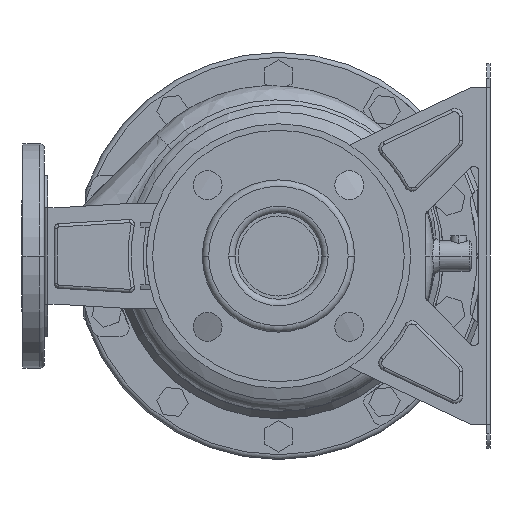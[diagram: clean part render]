
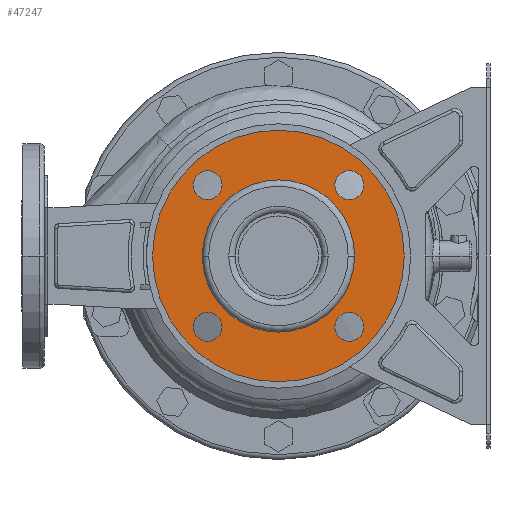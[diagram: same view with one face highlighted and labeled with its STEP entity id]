
A CAD part, front view. The second image highlights one B-rep face of the part: STEP entity #47247.
In plain terms, the highlighted planar face has unit normal (0, -1, 0).
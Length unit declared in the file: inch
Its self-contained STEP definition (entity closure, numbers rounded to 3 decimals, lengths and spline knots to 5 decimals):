
#1094 = ORIENTED_EDGE ( 'NONE', *, *, #14603, .F. ) ;
#1237 = CARTESIAN_POINT ( 'NONE',  ( -3.09055, -6.92913, 0. ) ) ;
#1250 = CARTESIAN_POINT ( 'NONE',  ( -1.87008, -6.92913, 0. ) ) ;
#1944 = EDGE_CURVE ( 'NONE', #12251, #37632, #40203, .T. ) ;
#3544 = FACE_BOUND ( 'NONE', #64754, .T. ) ;
#4126 = FACE_OUTER_BOUND ( 'NONE', #69120, .T. ) ;
#4985 = ORIENTED_EDGE ( 'NONE', *, *, #95185, .F. ) ;
#5308 = DIRECTION ( 'NONE',  ( -1., 0., 0. ) ) ;
#5895 = VERTEX_POINT ( 'NONE', #114654 ) ;
#6240 = AXIS2_PLACEMENT_3D ( 'NONE', #22193, #76677, #105152 ) ;
#7467 = EDGE_LOOP ( 'NONE', ( #46225, #46328 ) ) ;
#12038 = CARTESIAN_POINT ( 'NONE',  ( -1.73993, -6.92913, 1.73993 ) ) ;
#12251 = VERTEX_POINT ( 'NONE', #1237 ) ;
#12278 = ORIENTED_EDGE ( 'NONE', *, *, #59490, .T. ) ;
#12839 = EDGE_CURVE ( 'NONE', #36240, #54792, #57988, .T. ) ;
#13546 = VERTEX_POINT ( 'NONE', #84044 ) ;
#13604 = CARTESIAN_POINT ( 'NONE',  ( 1.73993, -6.92913, -2.09426 ) ) ;
#13783 = DIRECTION ( 'NONE',  ( 0., 1., 0. ) ) ;
#13942 = EDGE_LOOP ( 'NONE', ( #23315, #103727 ) ) ;
#14044 = AXIS2_PLACEMENT_3D ( 'NONE', #118031, #16348, #40760 ) ;
#14603 = EDGE_CURVE ( 'NONE', #20183, #102642, #68905, .T. ) ;
#15313 = ORIENTED_EDGE ( 'NONE', *, *, #90393, .T. ) ;
#15630 = EDGE_LOOP ( 'NONE', ( #51425, #75371 ) ) ;
#16348 = DIRECTION ( 'NONE',  ( 0., 1., 0. ) ) ;
#18589 = AXIS2_PLACEMENT_3D ( 'NONE', #12038, #48988, #86490 ) ;
#20183 = VERTEX_POINT ( 'NONE', #1250 ) ;
#22133 = CARTESIAN_POINT ( 'NONE',  ( 0., -6.92913, 0. ) ) ;
#22193 = CARTESIAN_POINT ( 'NONE',  ( -1.73993, -6.92913, 1.73993 ) ) ;
#23315 = ORIENTED_EDGE ( 'NONE', *, *, #29852, .T. ) ;
#24075 = FACE_BOUND ( 'NONE', #49935, .T. ) ;
#24285 = DIRECTION ( 'NONE',  ( -1., 0., 0. ) ) ;
#25144 = EDGE_CURVE ( 'NONE', #13546, #73650, #102995, .T. ) ;
#26082 = CARTESIAN_POINT ( 'NONE',  ( 0., -6.92913, 0. ) ) ;
#29028 = CARTESIAN_POINT ( 'NONE',  ( -1.73993, -6.92913, 2.09426 ) ) ;
#29335 = EDGE_CURVE ( 'NONE', #81042, #5895, #85941, .T. ) ;
#29852 = EDGE_CURVE ( 'NONE', #73650, #13546, #45521, .T. ) ;
#31412 = CIRCLE ( 'NONE', #6240, 0.35433 ) ;
#33742 = AXIS2_PLACEMENT_3D ( 'NONE', #71761, #118406, #80845 ) ;
#34131 = CARTESIAN_POINT ( 'NONE',  ( -1.73993, -6.92913, -1.73993 ) ) ;
#34709 = DIRECTION ( 'NONE',  ( 0., 1., 0. ) ) ;
#35351 = VERTEX_POINT ( 'NONE', #29028 ) ;
#36240 = VERTEX_POINT ( 'NONE', #74090 ) ;
#37624 = DIRECTION ( 'NONE',  ( 0., -1., 0. ) ) ;
#37632 = VERTEX_POINT ( 'NONE', #100477 ) ;
#40203 = CIRCLE ( 'NONE', #71107, 3.09055 ) ;
#40760 = DIRECTION ( 'NONE',  ( -1., 0., 0. ) ) ;
#41136 = CARTESIAN_POINT ( 'NONE',  ( 0., -6.92913, 0. ) ) ;
#42236 = DIRECTION ( 'NONE',  ( 0., 0., 1. ) ) ;
#42554 = EDGE_CURVE ( 'NONE', #35351, #103868, #31412, .T. ) ;
#42586 = CIRCLE ( 'NONE', #100598, 1.87008 ) ;
#43423 = DIRECTION ( 'NONE',  ( 0., 1., 0. ) ) ;
#45521 = CIRCLE ( 'NONE', #99595, 0.35433 ) ;
#46225 = ORIENTED_EDGE ( 'NONE', *, *, #29335, .T. ) ;
#46328 = ORIENTED_EDGE ( 'NONE', *, *, #65207, .T. ) ;
#47247 = ADVANCED_FACE ( 'NONE', ( #4126, #24075, #60984, #70065, #86477, #3544 ), #49573, .F. ) ;
#48988 = DIRECTION ( 'NONE',  ( 0., 1., 0. ) ) ;
#49573 = PLANE ( 'NONE',  #97416 ) ;
#49935 = EDGE_LOOP ( 'NONE', ( #1094, #12278 ) ) ;
#49949 = CARTESIAN_POINT ( 'NONE',  ( -1.3856, -6.92913, -1.73993 ) ) ;
#50548 = DIRECTION ( 'NONE',  ( 0., 1., 0. ) ) ;
#51425 = ORIENTED_EDGE ( 'NONE', *, *, #12839, .T. ) ;
#51965 = ORIENTED_EDGE ( 'NONE', *, *, #1944, .T. ) ;
#52505 = CARTESIAN_POINT ( 'NONE',  ( 1.73993, -6.92913, -1.73993 ) ) ;
#53117 = CARTESIAN_POINT ( 'NONE',  ( -1.73993, -6.92913, -1.73993 ) ) ;
#54792 = VERTEX_POINT ( 'NONE', #49949 ) ;
#57988 = CIRCLE ( 'NONE', #87029, 0.35433 ) ;
#59147 = EDGE_CURVE ( 'NONE', #54792, #36240, #110198, .T. ) ;
#59490 = EDGE_CURVE ( 'NONE', #20183, #102642, #42586, .T. ) ;
#59733 = AXIS2_PLACEMENT_3D ( 'NONE', #26082, #90249, #24285 ) ;
#59835 = DIRECTION ( 'NONE',  ( 0., -1., 0. ) ) ;
#60984 = FACE_BOUND ( 'NONE', #13942, .T. ) ;
#62961 = CIRCLE ( 'NONE', #18589, 0.35433 ) ;
#64754 = EDGE_LOOP ( 'NONE', ( #109274, #15313 ) ) ;
#65207 = EDGE_CURVE ( 'NONE', #5895, #81042, #112342, .T. ) ;
#68905 = CIRCLE ( 'NONE', #90173, 1.87008 ) ;
#69120 = EDGE_LOOP ( 'NONE', ( #4985, #51965 ) ) ;
#69788 = AXIS2_PLACEMENT_3D ( 'NONE', #52505, #13783, #42236 ) ;
#70065 = FACE_BOUND ( 'NONE', #7467, .T. ) ;
#71107 = AXIS2_PLACEMENT_3D ( 'NONE', #41136, #59835, #95632 ) ;
#71761 = CARTESIAN_POINT ( 'NONE',  ( 1.73993, -6.92913, -1.73993 ) ) ;
#72824 = DIRECTION ( 'NONE',  ( 1., 0., 0. ) ) ;
#73650 = VERTEX_POINT ( 'NONE', #74524 ) ;
#74090 = CARTESIAN_POINT ( 'NONE',  ( -2.09426, -6.92913, -1.73993 ) ) ;
#74524 = CARTESIAN_POINT ( 'NONE',  ( 2.09426, -6.92913, 1.73993 ) ) ;
#74525 = DIRECTION ( 'NONE',  ( -1., 0., 0. ) ) ;
#75328 = CARTESIAN_POINT ( 'NONE',  ( 1.87008, -6.92913, 0. ) ) ;
#75371 = ORIENTED_EDGE ( 'NONE', *, *, #59147, .T. ) ;
#76677 = DIRECTION ( 'NONE',  ( 0., 1., 0. ) ) ;
#80845 = DIRECTION ( 'NONE',  ( 0., 0., -1. ) ) ;
#80913 = DIRECTION ( 'NONE',  ( 1., 0., 0. ) ) ;
#81042 = VERTEX_POINT ( 'NONE', #13604 ) ;
#84044 = CARTESIAN_POINT ( 'NONE',  ( 1.3856, -6.92913, 1.73993 ) ) ;
#85941 = CIRCLE ( 'NONE', #33742, 0.35433 ) ;
#86477 = FACE_BOUND ( 'NONE', #15630, .T. ) ;
#86490 = DIRECTION ( 'NONE',  ( 0., 0., -1. ) ) ;
#87029 = AXIS2_PLACEMENT_3D ( 'NONE', #34131, #34709, #108568 ) ;
#88768 = CIRCLE ( 'NONE', #59733, 3.09055 ) ;
#88886 = AXIS2_PLACEMENT_3D ( 'NONE', #53117, #43423, #80913 ) ;
#90173 = AXIS2_PLACEMENT_3D ( 'NONE', #90859, #37624, #74525 ) ;
#90249 = DIRECTION ( 'NONE',  ( 0., 1., 0. ) ) ;
#90393 = EDGE_CURVE ( 'NONE', #103868, #35351, #62961, .T. ) ;
#90859 = CARTESIAN_POINT ( 'NONE',  ( 0., -6.92913, 0. ) ) ;
#94128 = CARTESIAN_POINT ( 'NONE',  ( -1.73993, -6.92913, 1.3856 ) ) ;
#95185 = EDGE_CURVE ( 'NONE', #12251, #37632, #88768, .T. ) ;
#95632 = DIRECTION ( 'NONE',  ( -1., 0., 0. ) ) ;
#96154 = CARTESIAN_POINT ( 'NONE',  ( 0., -6.92913, 0. ) ) ;
#97416 = AXIS2_PLACEMENT_3D ( 'NONE', #96154, #114922, #5308 ) ;
#98866 = DIRECTION ( 'NONE',  ( 0., 1., 0. ) ) ;
#99595 = AXIS2_PLACEMENT_3D ( 'NONE', #117629, #98866, #72824 ) ;
#100477 = CARTESIAN_POINT ( 'NONE',  ( 3.09055, -6.92913, 0. ) ) ;
#100598 = AXIS2_PLACEMENT_3D ( 'NONE', #22133, #50548, #106854 ) ;
#102642 = VERTEX_POINT ( 'NONE', #75328 ) ;
#102995 = CIRCLE ( 'NONE', #14044, 0.35433 ) ;
#103727 = ORIENTED_EDGE ( 'NONE', *, *, #25144, .T. ) ;
#103868 = VERTEX_POINT ( 'NONE', #94128 ) ;
#105152 = DIRECTION ( 'NONE',  ( 0., 0., 1. ) ) ;
#106854 = DIRECTION ( 'NONE',  ( -1., 0., 0. ) ) ;
#108568 = DIRECTION ( 'NONE',  ( -1., 0., 0. ) ) ;
#109274 = ORIENTED_EDGE ( 'NONE', *, *, #42554, .T. ) ;
#110198 = CIRCLE ( 'NONE', #88886, 0.35433 ) ;
#112342 = CIRCLE ( 'NONE', #69788, 0.35433 ) ;
#114654 = CARTESIAN_POINT ( 'NONE',  ( 1.73993, -6.92913, -1.3856 ) ) ;
#114922 = DIRECTION ( 'NONE',  ( 0., 1., 0. ) ) ;
#117629 = CARTESIAN_POINT ( 'NONE',  ( 1.73993, -6.92913, 1.73993 ) ) ;
#118031 = CARTESIAN_POINT ( 'NONE',  ( 1.73993, -6.92913, 1.73993 ) ) ;
#118406 = DIRECTION ( 'NONE',  ( 0., 1., 0. ) ) ;
